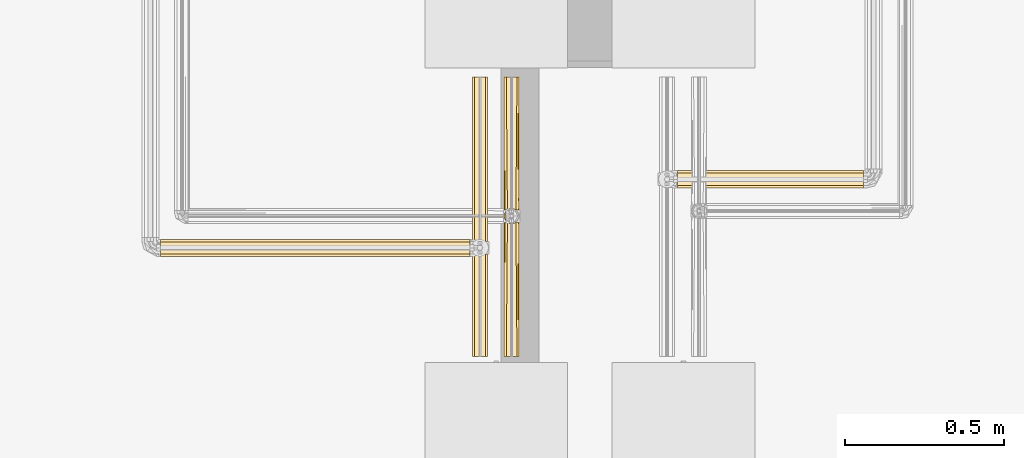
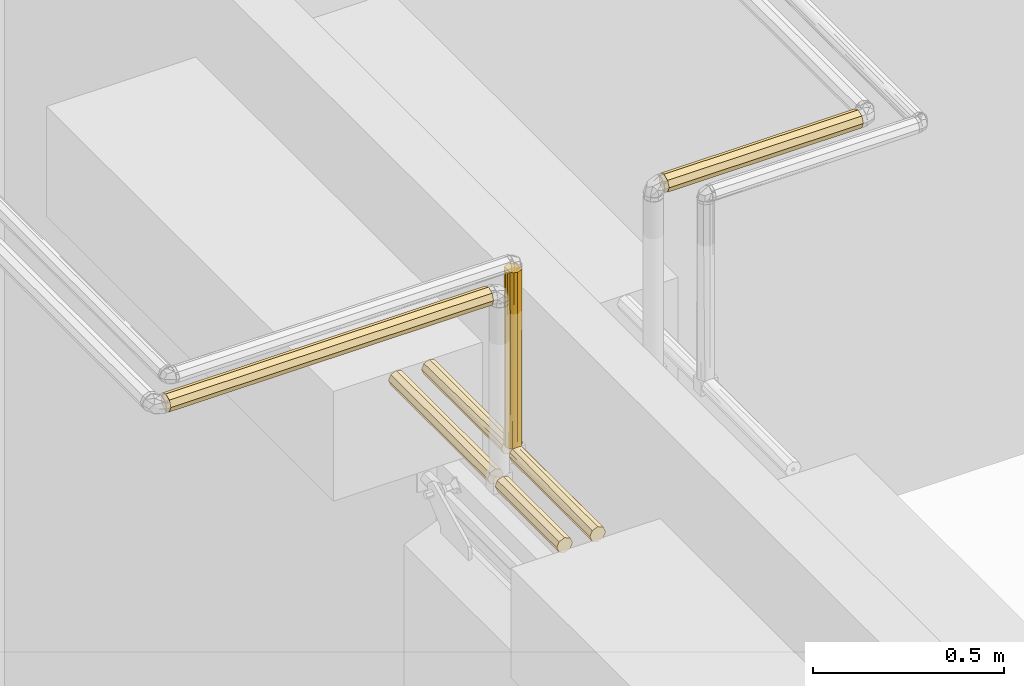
# One storey, part 165 of 652: 7 coverings.
"""IFC2X3 building model written with IfcOpenShell, lengths in millimetres."""

from ifc_helpers import new_model, entity, si_unit, converted_unit, direction, frame, origin, place, context, subcontext, project, spatial, faceted_brep, material, type_object, element, save


model = new_model("IFC2X3")

# Units and contexts
model_context = context("Model", 3, precision=0.01, world=frame((0.0, 0.0, 308426.39999999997)), true_north=direction((6.123233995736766e-17, 1.0)))
plan_context = context("Plan", 3, precision=0.01, world=frame((0.0, 0.0, 308426.39999999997)), true_north=direction((6.123233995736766e-17, 1.0)))
body_context = subcontext(model_context, "Body", "Model", "MODEL_VIEW")
ifc_project = project(units=[si_unit("LENGTHUNIT", "METRE", prefix="MILLI"), si_unit("AREAUNIT", "SQUARE_METRE"), si_unit("VOLUMEUNIT", "CUBIC_METRE"), converted_unit("PLANEANGLEUNIT", "DEGREE", entity("IfcPlaneAngleMeasure", 0.017453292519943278), si_unit("PLANEANGLEUNIT", "RADIAN"), dimensions=[0, 0, 0, 0, 0, 0, 0])], contexts=[model_context, plan_context])

# Site, building, storey
site_placement = place(None, origin())
site = spatial("IfcSite", under=ifc_project, at=site_placement, Name="Default", CompositionType="ELEMENT")
building_placement = place(site_placement, origin())
building = spatial("IfcBuilding", under=site, at=building_placement, CompositionType="ELEMENT")
storey_placement = place(building_placement, frame((0.0, 0.0, 1730.6999999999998)))
storey = spatial("IfcBuildingStorey", under=building, at=storey_placement, Name="EG_Produktion_FFB", CompositionType="ELEMENT", Elevation=1730.6999999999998)

# Coverings
ifc_material = material(Name="Dämmung - Armaflex-Schlauch")
covering_type = type_object("IfcCoveringType", Name="Rohrdämmung außen:Armaflex-Schlauch", PredefinedType="INSULATION")
covering_1_placement = place(storey_placement, frame((26822.89316691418, 55629.92856831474, 2725.357772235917)))
element("IfcCovering", 1, at=covering_1_placement, inside=storey, type_object=covering_type, material=ifc_material, Name="Rohrdämmung außen:Armaflex-Schlauch", ObjectType="Rohrdämmung außen:Armaflex-Schlauch", PredefinedType="INSULATION", context=body_context, shape_type="Brep", body=[
    faceted_brep([(8.55514734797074, 419.7263330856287, -42.16039712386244), (6.8151785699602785, 419.7263330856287, -37.959740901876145), (5.0752097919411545, 419.7263330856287, -33.75908467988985), (3.3352410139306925, 419.7263330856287, -29.55842845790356), (1.5952722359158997, 419.7263330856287, -25.357772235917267), (3.3352410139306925, 419.7263330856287, -21.157116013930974), (5.0752097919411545, 419.7263330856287, -16.95645979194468), (6.815178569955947, 419.7263330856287, -12.755803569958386), (8.55514734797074, 419.7263330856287, -8.555147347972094), (12.755803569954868, 419.7263330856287, -6.815178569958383), (16.956459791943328, 419.7263330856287, -5.0752097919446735), (21.157116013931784, 419.7263330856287, -3.3352410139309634), (25.357772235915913, 419.7263330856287, -1.5952722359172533), (29.55842845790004, 419.7263330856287, -3.3352410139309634), (33.759084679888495, 419.7263330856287, -5.0752097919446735), (37.95974090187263, 419.7263330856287, -6.815178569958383), (42.16039712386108, 419.7263330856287, -8.555147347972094), (43.90036590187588, 419.7263330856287, -12.755803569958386), (45.64033467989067, 419.7263330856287, -16.95645979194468), (47.38030345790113, 419.7263330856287, -21.157116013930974), (49.12027223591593, 419.7263330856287, -25.357772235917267), (47.38030345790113, 419.7263330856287, -29.55842845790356), (45.64033467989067, 419.7263330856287, -33.75908467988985), (43.900365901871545, 419.7263330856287, -37.959740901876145), (42.16039712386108, 419.7263330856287, -42.16039712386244), (37.95974090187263, 419.7263330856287, -43.90036590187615), (33.759084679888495, 419.7263330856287, -45.64033467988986), (29.55842845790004, 419.7263330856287, -47.380303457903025), (25.357772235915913, 419.7263330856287, -49.12027223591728), (22.317827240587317, 419.7263330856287, -47.86108578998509), (16.956459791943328, 419.7263330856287, -45.64033467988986), (12.755803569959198, 419.7263330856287, -43.90036590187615), (46.359313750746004, 1.5952722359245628, -14.240593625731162), (42.539923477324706, 1.5952722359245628, -9.974557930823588), (38.72053320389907, 1.5952722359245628, -5.708522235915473), (11.995011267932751, 1.5952722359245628, -5.708522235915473), (8.175620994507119, 1.5952722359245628, -9.974557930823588), (4.3562307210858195, 1.5952722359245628, -14.240593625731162), (2.975751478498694, 1.5952722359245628, -19.799182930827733), (1.5952722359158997, 1.5952722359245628, -25.357772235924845), (4.1136451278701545, 1.5952722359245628, -31.43766222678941), (6.334396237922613, 1.5952722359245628, -36.799029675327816), (8.55514734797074, 1.5952722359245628, -42.16039712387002), (12.755803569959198, 1.5952722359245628, -43.90036590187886), (16.95645979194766, 1.5952722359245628, -45.64033467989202), (21.157116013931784, 1.5952722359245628, -47.38030345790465), (25.357772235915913, 1.5952722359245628, -49.12027223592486), (31.437662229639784, 1.5952722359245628, -46.601899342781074), (36.7990296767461, 1.5952722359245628, -44.38114823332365), (42.16039712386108, 1.5952722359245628, -42.16039712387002), (43.900365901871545, 1.5952722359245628, -37.95974090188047), (45.64033467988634, 1.5952722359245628, -33.75908467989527), (47.38030345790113, 1.5952722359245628, -29.558428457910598), (49.12027223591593, 1.5952722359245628, -25.357772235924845), (47.73979299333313, 1.5952722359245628, -19.799182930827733), (18.36702466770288, 4.656941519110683, -2.6468529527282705), (25.357772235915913, 5.708522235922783, -1.5952722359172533), (32.34851980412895, 4.656941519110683, -2.6468529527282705)], [[[0, 1, 2, 3, 4, 5, 6, 7, 8, 9, 10, 11, 12, 13, 14, 15, 16, 17, 18, 19, 20, 21, 22, 23, 24, 25, 26, 27, 28, 29, 30, 31]], [[32, 33, 34, 35, 36, 37, 38, 39, 40, 41, 42, 43, 44, 45, 46, 47, 48, 49, 50, 51, 52, 53, 54]], [[51, 50, 49, 24, 23, 22, 21, 20, 53, 52]], [[47, 46, 28, 27, 26, 25, 24, 49, 48]], [[44, 43, 42, 0, 31, 30, 29, 28, 46, 45]], [[0, 42, 41, 40, 39, 4, 3, 2, 1]], [[37, 6, 38]], [[11, 10, 55]], [[35, 10, 9, 8]], [[36, 7, 37]], [[7, 36, 8]], [[56, 11, 55]], [[39, 5, 4]], [[38, 6, 5]], [[7, 6, 37]], [[35, 55, 10]], [[11, 56, 12]], [[39, 38, 5]], [[36, 35, 8]], [[13, 12, 56]], [[16, 34, 33]], [[57, 13, 56]], [[19, 18, 54]], [[32, 17, 33]], [[19, 53, 20]], [[54, 18, 32]], [[34, 14, 57]], [[57, 14, 13]], [[17, 16, 33]], [[53, 19, 54]], [[34, 16, 15, 14]], [[32, 18, 17]], [[55, 35, 34, 57, 56]]]),
])
covering_2_placement = place(storey_placement, frame((27370.23468915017, 55699.373068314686, 3271.467227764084)))
element("IfcCovering", 2, at=covering_2_placement, inside=storey, type_object=covering_type, material=ifc_material, Name="Rohrdämmung außen:Armaflex-Schlauch", ObjectType="Rohrdämmung außen:Armaflex-Schlauch", PredefinedType="INSULATION", context=body_context, shape_type="Brep", body=[
    faceted_brep([(586.459882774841, 9.485083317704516, 9.485083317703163), (586.459882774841, 14.247005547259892, 7.512630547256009), (586.459882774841, 19.008927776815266, 5.5401777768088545), (586.4598827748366, 23.77085000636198, 3.567725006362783), (586.459882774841, 28.532772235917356, 1.595272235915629), (586.459882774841, 33.76477034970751, 3.7624368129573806), (586.459882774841, 38.05661669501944, 5.5401777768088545), (586.4598827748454, 42.81853892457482, 7.512630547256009), (586.459882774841, 47.5804611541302, 9.485083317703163), (586.459882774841, 49.552913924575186, 14.247005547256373), (586.459882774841, 51.525366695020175, 19.008927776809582), (586.4598827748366, 53.49781946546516, 23.770850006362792), (586.459882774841, 55.47027223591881, 28.532772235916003), (586.459882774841, 53.303107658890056, 33.76477034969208), (586.459882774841, 51.525366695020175, 38.05661669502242), (586.4598827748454, 49.552913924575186, 42.818538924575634), (586.459882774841, 47.5804611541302, 47.58046115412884), (586.459882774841, 42.81853892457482, 49.552913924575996), (586.459882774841, 38.05661669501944, 51.52536669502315), (586.459882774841, 33.29469446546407, 53.49781946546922), (586.459882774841, 28.532772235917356, 55.470272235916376), (586.459882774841, 23.300774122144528, 53.30310765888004), (586.459882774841, 19.008927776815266, 51.52536669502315), (586.459882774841, 14.247005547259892, 49.552913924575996), (586.459882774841, 9.485083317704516, 47.58046115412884), (586.4598827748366, 7.512630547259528, 42.818538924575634), (586.459882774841, 5.54017777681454, 38.05661669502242), (586.459882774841, 3.567725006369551, 33.29469446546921), (586.459882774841, 1.5952722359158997, 28.532772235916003), (586.459882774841, 3.567725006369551, 23.770850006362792), (586.459882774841, 5.54017777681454, 19.008927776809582), (586.4598827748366, 7.512630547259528, 14.247005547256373), (0.0, 47.5804611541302, 47.58046115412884), (0.0, 49.55291392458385, 42.818538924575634), (0.0, 51.525366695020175, 38.05661669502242), (0.0, 53.49781946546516, 33.29469446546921), (0.0, 55.47027223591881, 28.532772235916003), (0.0, 53.30310765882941, 23.300774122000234), (0.0, 51.135943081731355, 18.068776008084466), (0.0, 49.35820211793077, 13.776929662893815), (0.0, 47.5804611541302, 9.485083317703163), (0.0, 42.81853892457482, 7.512630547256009), (0.0, 38.05661669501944, 5.5401777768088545), (0.0, 33.29469446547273, 3.5677250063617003), (0.0, 28.532772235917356, 1.595272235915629), (0.0, 23.300774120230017, 3.7624368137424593), (0.0, 18.068776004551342, 5.929601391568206), (0.0, 13.776929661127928, 7.707342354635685), (0.0, 9.485083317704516, 9.485083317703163), (0.0, 7.512630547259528, 14.247005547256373), (0.0, 5.54017777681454, 19.008927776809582), (0.0, 3.567725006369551, 23.770850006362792), (0.0, 1.5952722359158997, 28.532772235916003), (0.0, 3.7624368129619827, 33.764770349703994), (0.0, 5.9296013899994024, 38.99676846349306), (0.0, 7.707342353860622, 43.288614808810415), (0.0, 9.485083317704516, 47.58046115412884), (0.0, 14.247005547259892, 49.552913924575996), (0.0, 19.008927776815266, 51.52536669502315), (0.0, 23.77085000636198, 53.49781946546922), (0.0, 28.532772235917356, 55.470272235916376), (0.0, 33.764770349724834, 53.30310765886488), (0.0, 38.99676846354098, 51.13594308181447), (0.0, 43.28861480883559, 49.35820211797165)], [[[0, 1, 2, 3, 4, 5, 6, 7, 8, 9, 10, 11, 12, 13, 14, 15, 16, 17, 18, 19, 20, 21, 22, 23, 24, 25, 26, 27, 28, 29, 30, 31]], [[32, 33, 34, 35, 36, 37, 38, 39, 40, 41, 42, 43, 44, 45, 46, 47, 48, 49, 50, 51, 52, 53, 54, 55, 56, 57, 58, 59, 60, 61, 62, 63]], [[50, 49, 48, 0, 31, 30, 29, 28, 52, 51]], [[0, 48, 47, 46, 45, 44, 4, 3, 2, 1]], [[36, 12, 11, 10, 9, 8, 40, 39, 38, 37]], [[7, 6, 5, 4, 44, 43, 42, 41, 40, 8]], [[60, 20, 19, 18, 17, 16, 32, 63, 62, 61]], [[15, 14, 13, 12, 36, 35, 34, 33, 32, 16]], [[52, 28, 27, 26, 25, 24, 56, 55, 54, 53]], [[23, 22, 21, 20, 60, 59, 58, 57, 56, 24]]]),
])
covering_3_placement = place(storey_placement, frame((25741.983749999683, 55483.341818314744, 3271.467227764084)))
element("IfcCovering", 3, at=covering_3_placement, inside=storey, type_object=covering_type, material=ifc_material, Name="Rohrdämmung außen:Armaflex-Schlauch", ObjectType="Rohrdämmung außen:Armaflex-Schlauch", PredefinedType="INSULATION", context=body_context, shape_type="Brep", body=[
    faceted_brep([(0.0, 47.5804611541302, 9.485083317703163), (0.0, 42.81853892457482, 7.512630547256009), (0.0, 38.05661669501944, 5.5401777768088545), (0.0, 33.29469446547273, 3.567725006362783), (0.0, 28.532772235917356, 1.595272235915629), (0.0, 22.23407746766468, 4.204277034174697), (0.0, 19.008927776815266, 5.5401777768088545), (0.0, 14.247005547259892, 7.512630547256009), (0.0, 9.485083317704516, 9.485083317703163), (0.0, 7.512630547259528, 14.247005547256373), (0.0, 5.540177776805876, 19.008927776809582), (0.0, 3.5677250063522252, 23.770850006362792), (0.0, 1.5952722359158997, 28.532772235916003), (0.0, 4.204277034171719, 34.83146700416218), (0.0, 5.540177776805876, 38.05661669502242), (0.0, 7.512630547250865, 42.818538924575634), (0.0, 9.485083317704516, 47.58046115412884), (0.0, 14.247005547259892, 49.552913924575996), (0.0, 19.008927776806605, 51.525366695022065), (0.0, 23.77085000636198, 53.49781946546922), (0.0, 28.532772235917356, 55.470272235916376), (0.0, 34.83146700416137, 52.86126743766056), (0.0, 38.05661669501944, 51.52536669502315), (0.0, 42.81853892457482, 49.552913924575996), (0.0, 47.5804611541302, 47.58046115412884), (0.0, 49.552913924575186, 42.818538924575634), (0.0, 51.525366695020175, 38.05661669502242), (0.0, 53.497819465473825, 33.29469446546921), (0.0, 55.47027223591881, 28.532772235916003), (0.0, 53.49781946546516, 23.770850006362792), (0.0, 51.525366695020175, 19.008927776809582), (0.0, 49.55291392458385, 14.247005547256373), (974.2834391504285, 9.485083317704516, 47.58046115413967), (974.2834391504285, 7.512630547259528, 42.81853892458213), (974.2834391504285, 5.54017777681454, 38.05661669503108), (974.2834391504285, 3.567725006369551, 33.294694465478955), (974.2834391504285, 1.5952722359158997, 28.53277223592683), (974.2834391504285, 4.2042770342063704, 22.234077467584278), (974.2834391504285, 6.8132818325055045, 15.935382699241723), (974.2834391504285, 9.485083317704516, 9.485083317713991), (974.283439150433, 14.247005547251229, 7.51263054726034), (974.283439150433, 19.008927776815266, 5.540177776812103), (974.283439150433, 23.77085000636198, 3.567725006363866), (974.2834391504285, 28.532772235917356, 1.5952722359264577), (974.2834391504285, 34.8314670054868, 4.204277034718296), (974.2834391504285, 41.130161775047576, 6.813281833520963), (974.2834391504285, 47.5804611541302, 9.485083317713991), (974.2834391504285, 49.552913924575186, 14.24700554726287), (974.2834391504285, 51.525366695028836, 19.008927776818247), (974.2834391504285, 53.497819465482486, 23.770850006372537), (974.2834391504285, 55.47027223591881, 28.53277223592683), (974.2834391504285, 52.86126743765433, 34.83146700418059), (974.2834391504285, 50.25226263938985, 41.13016177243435), (974.2834391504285, 47.5804611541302, 47.58046115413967), (974.2834391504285, 42.81853892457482, 49.552913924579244), (974.2834391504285, 38.05661669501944, 51.52536669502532), (974.2834391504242, 33.29469446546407, 53.49781946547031), (974.2834391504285, 28.532772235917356, 55.470272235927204), (974.2834391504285, 22.234077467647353, 52.8612674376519), (974.2834391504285, 15.935382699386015, 50.25226263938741)], [[[0, 1, 2, 3, 4, 5, 6, 7, 8, 9, 10, 11, 12, 13, 14, 15, 16, 17, 18, 19, 20, 21, 22, 23, 24, 25, 26, 27, 28, 29, 30, 31]], [[32, 33, 34, 35, 36, 37, 38, 39, 40, 41, 42, 43, 44, 45, 46, 47, 48, 49, 50, 51, 52, 53, 54, 55, 56, 57, 58, 59]], [[48, 47, 46, 0, 31, 30, 29, 28, 50, 49]], [[46, 45, 44, 43, 4, 3, 2, 1, 0]], [[10, 9, 8, 39, 38, 37, 36, 12, 11]], [[7, 6, 5, 4, 43, 42, 41, 40, 39, 8]], [[18, 17, 16, 32, 59, 58, 57, 20, 19]], [[15, 14, 13, 12, 36, 35, 34, 33, 32, 16]], [[26, 25, 24, 53, 52, 51, 50, 28, 27]], [[23, 22, 21, 20, 57, 56, 55, 54, 53, 24]]]),
])
covering_4_placement = place(storey_placement, frame((26722.89316691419, 55531.52384055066, 2725.3577722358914)))
element("IfcCovering", 4, at=covering_4_placement, inside=storey, type_object=covering_type, material=ifc_material, Name="Rohrdämmung außen:Armaflex-Schlauch", ObjectType="Rohrdämmung außen:Armaflex-Schlauch", PredefinedType="INSULATION", context=body_context, shape_type="Brep", body=[
    faceted_brep([(8.55514734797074, 518.1310608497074, -42.16039712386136), (6.815178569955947, 518.1310608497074, -37.95974090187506), (5.075209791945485, 518.1310608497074, -33.759084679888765), (3.3352410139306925, 518.1310608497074, -29.558428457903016), (1.5952722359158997, 518.1310608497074, -25.357772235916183), (3.6275957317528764, 518.1310608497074, -20.451309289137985), (5.075209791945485, 518.1310608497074, -16.956459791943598), (6.815178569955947, 518.1310608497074, -12.755803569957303), (8.55514734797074, 518.1310608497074, -8.55514734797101), (12.755803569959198, 518.1310608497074, -6.8151785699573), (16.956459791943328, 518.1310608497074, -5.075209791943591), (21.157116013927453, 518.1310608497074, -3.3352410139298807), (25.357772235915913, 518.1310608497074, -1.5952722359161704), (30.264235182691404, 518.1310608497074, -3.6275957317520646), (33.759084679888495, 518.1310608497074, -5.075209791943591), (37.95974090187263, 518.1310608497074, -6.8151785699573), (42.16039712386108, 518.1310608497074, -8.55514734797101), (43.90036590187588, 518.1310608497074, -12.755803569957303), (45.64033467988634, 518.1310608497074, -16.956459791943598), (47.38030345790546, 518.1310608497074, -21.15711601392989), (49.12027223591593, 518.1310608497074, -25.357772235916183), (47.38030345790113, 518.1310608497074, -29.558428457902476), (45.64033467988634, 518.1310608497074, -33.759084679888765), (43.900365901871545, 518.1310608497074, -37.959740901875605), (42.16039712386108, 518.1310608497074, -42.16039712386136), (37.95974090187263, 518.1310608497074, -43.90036590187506), (33.759084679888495, 518.1310608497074, -45.640334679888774), (29.55842845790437, 518.1310608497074, -47.380303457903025), (25.357772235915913, 518.1310608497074, -49.1202722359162), (20.451309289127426, 518.1310608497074, -47.087948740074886), (16.956459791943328, 518.1310608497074, -45.640334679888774), (12.755803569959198, 518.1310608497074, -43.90036590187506), (42.16039712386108, 0.0, -8.555147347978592), (37.95974090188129, 0.0, -6.815178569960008), (33.759084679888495, 0.0, -5.075209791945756), (29.55842845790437, 0.0, -3.335241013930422), (25.357772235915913, 0.0, -1.5952722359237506), (20.451309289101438, 0.0, -3.627595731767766), (15.544846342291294, 0.0, -5.659919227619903), (8.55514734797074, 0.0, -8.555147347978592), (6.815178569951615, 0.0, -12.755803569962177), (5.0752097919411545, 0.0, -16.956459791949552), (3.3352410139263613, 0.0, -21.15711601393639), (1.5952722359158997, 0.0, -25.35777223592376), (3.6275957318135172, 0.0, -30.2642351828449), (5.659919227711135, 0.0, -35.17069812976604), (8.55514734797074, 0.0, -42.16039712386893), (12.755803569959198, 0.0, -43.90036590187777), (16.956459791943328, 0.0, -45.64033467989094), (21.157116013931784, 0.0, -47.38030345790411), (25.357772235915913, 0.0, -49.12027223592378), (30.264235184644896, 0.0, -47.087948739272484), (35.17069813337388, 0.0, -45.055625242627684), (42.16039712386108, 0.0, -42.16039712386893), (43.90036590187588, 0.0, -37.95974090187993), (45.64033467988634, 0.0, -33.75908467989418), (47.3803034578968, 0.0, -29.558428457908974), (49.12027223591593, 0.0, -25.35777223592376), (47.087948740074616, 0.0, -20.451309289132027), (45.055625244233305, 0.0, -15.544846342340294)], [[[0, 1, 2, 3, 4, 5, 6, 7, 8, 9, 10, 11, 12, 13, 14, 15, 16, 17, 18, 19, 20, 21, 22, 23, 24, 25, 26, 27, 28, 29, 30, 31]], [[32, 33, 34, 35, 36, 37, 38, 39, 40, 41, 42, 43, 44, 45, 46, 47, 48, 49, 50, 51, 52, 53, 54, 55, 56, 57, 58, 59]], [[55, 54, 53, 24, 23, 22, 21, 20, 57, 56]], [[53, 52, 51, 50, 28, 27, 26, 25, 24]], [[43, 4, 3, 2, 1, 0, 46, 45, 44]], [[31, 30, 29, 28, 50, 49, 48, 47, 46, 0]], [[36, 12, 11, 10, 9, 8, 39, 38, 37]], [[7, 6, 5, 4, 43, 42, 41, 40, 39, 8]], [[57, 20, 19, 18, 17, 16, 32, 59, 58]], [[15, 14, 13, 12, 36, 35, 34, 33, 32, 16]]]),
])
covering_5_placement = place(storey_placement, frame((26822.89316691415, 55169.654901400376, 2725.357772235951)))
element("IfcCovering", 5, at=covering_5_placement, inside=storey, type_object=covering_type, material=ifc_material, Name="Rohrdämmung außen:Armaflex-Schlauch", ObjectType="Rohrdämmung außen:Armaflex-Schlauch", PredefinedType="INSULATION", context=body_context, shape_type="Brep", body=[
    faceted_brep([(11.995011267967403, 422.57043915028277, -5.708522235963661), (38.72053320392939, 422.57043915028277, -5.708522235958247), (42.539923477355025, 422.57043915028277, -9.974557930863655), (46.35931375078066, 422.57043915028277, -14.240593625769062), (47.73979299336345, 422.57043915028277, -19.799182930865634), (49.12027223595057, 422.57043915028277, -25.357772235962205), (47.380303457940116, 422.57043915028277, -29.558428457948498), (45.64033467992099, 422.57043915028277, -33.75908467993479), (43.900365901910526, 422.57043915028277, -37.95974090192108), (42.160397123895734, 422.57043915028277, -42.16039712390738), (37.95974090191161, 422.57043915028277, -43.900365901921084), (33.75908467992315, 422.57043915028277, -45.640334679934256), (29.558428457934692, 422.57043915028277, -47.38030345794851), (25.357772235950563, 422.57043915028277, -49.12027223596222), (22.349763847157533, 422.57043915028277, -47.87431436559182), (16.956459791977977, 422.57043915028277, -45.640334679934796), (12.755803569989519, 422.57043915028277, -43.900365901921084), (8.555147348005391, 422.57043915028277, -42.16039712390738), (6.815178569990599, 422.57043915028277, -37.95974090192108), (5.0752097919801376, 422.57043915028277, -33.75908467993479), (3.3352410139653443, 422.57043915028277, -29.558428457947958), (1.5952722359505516, 422.57043915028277, -25.357772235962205), (2.9757514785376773, 422.57043915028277, -19.799182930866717), (4.356230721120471, 422.57043915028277, -14.24059362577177), (8.175620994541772, 422.57043915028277, -9.974557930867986), (42.16039712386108, 0.0, -8.55514734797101), (37.959740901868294, 0.0, -6.815178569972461), (33.759084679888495, 0.0, -5.075209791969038), (29.55842845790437, 0.0, -3.3352410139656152), (25.357772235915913, 0.0, -1.5952722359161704), (21.15711601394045, 0.0, -3.335241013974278), (16.95645979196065, 0.0, -5.0752097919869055), (12.755803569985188, 0.0, -6.81517856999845), (8.55514734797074, 0.0, -8.55514734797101), (6.81517856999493, 0.0, -12.755803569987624), (5.0752097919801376, 0.0, -16.95645979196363), (3.3352410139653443, 0.0, -21.157116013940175), (1.5952722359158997, 0.0, -25.357772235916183), (4.087187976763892, 0.0, -31.373789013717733), (6.321167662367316, 0.0, -36.76709306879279), (8.55514734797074, 0.0, -42.16039712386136), (12.755803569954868, 0.0, -43.900365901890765), (16.956459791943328, 0.0, -45.640334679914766), (21.157116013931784, 0.0, -47.38030345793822), (25.357772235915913, 0.0, -49.1202722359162), (31.37378901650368, 0.0, -46.628356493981), (36.767093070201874, 0.0, -44.39437680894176), (42.16039712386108, 0.0, -42.16039712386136), (43.900365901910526, 0.0, -37.959740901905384), (45.64033467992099, 0.0, -33.75908467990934), (47.380303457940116, 0.0, -29.558428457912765), (49.12027223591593, 0.0, -25.357772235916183), (47.87431436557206, 0.0, -22.34976384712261), (45.64033467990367, 0.0, -16.956459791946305), (43.90036590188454, 0.0, -12.755803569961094), (18.3670246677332, 419.50876986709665, -2.6468529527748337), (25.357772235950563, 418.45718915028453, -1.5952722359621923), (32.34851980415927, 419.50876986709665, -2.6468529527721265)], [[[0, 1, 2, 3, 4, 5, 6, 7, 8, 9, 10, 11, 12, 13, 14, 15, 16, 17, 18, 19, 20, 21, 22, 23, 24]], [[25, 26, 27, 28, 29, 30, 31, 32, 33, 34, 35, 36, 37, 38, 39, 40, 41, 42, 43, 44, 45, 46, 47, 48, 49, 50, 51, 52, 53, 54]], [[49, 48, 47, 9, 8, 7, 6, 5, 51, 50]], [[45, 44, 13, 12, 11, 10, 9, 47, 46]], [[42, 41, 40, 17, 16, 15, 14, 13, 44, 43]], [[17, 40, 39, 38, 37, 21, 20, 19, 18]], [[34, 33, 24]], [[0, 33, 32, 31]], [[55, 31, 30]], [[35, 23, 22]], [[33, 0, 24]], [[37, 36, 21]], [[55, 30, 56]], [[22, 36, 35]], [[23, 34, 24]], [[21, 36, 22]], [[29, 56, 30]], [[0, 31, 55]], [[23, 35, 34]], [[1, 27, 26, 25]], [[2, 54, 3]], [[56, 28, 57]], [[57, 27, 1]], [[54, 2, 25]], [[53, 4, 3]], [[54, 53, 3]], [[28, 27, 57]], [[52, 5, 4]], [[4, 53, 52]], [[52, 51, 5]], [[28, 56, 29]], [[2, 1, 25]], [[0, 55, 56, 57, 1]]]),
])
covering_6_placement = place(storey_placement, frame((26822.893166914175, 55586.51681831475, 2718.053977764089)))
element("IfcCovering", 6, at=covering_6_placement, inside=storey, type_object=covering_type, material=ifc_material, Name="Rohrdämmung außen:Armaflex-Schlauch", ObjectType="Rohrdämmung außen:Armaflex-Schlauch", PredefinedType="INSULATION", context=body_context, shape_type="Brep", body=[
    faceted_brep([(4.356230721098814, 36.4749508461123, 1.5952722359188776), (8.175620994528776, 40.74098654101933, 1.5952722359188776), (11.99501126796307, 45.007022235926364, 1.5952722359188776), (38.72053320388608, 45.007022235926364, 1.5952722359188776), (42.539923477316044, 40.74098654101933, 1.5952722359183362), (46.359313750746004, 36.4749508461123, 1.5952722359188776), (47.73979299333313, 30.916361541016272, 1.5952722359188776), (49.120272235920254, 25.35777223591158, 1.5952722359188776), (47.73979299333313, 19.79918293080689, 1.5952722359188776), (46.359313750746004, 14.240593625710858, 1.5952722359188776), (42.53992347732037, 9.974557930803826, 1.5952722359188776), (38.72053320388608, 5.708522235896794, 1.5952722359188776), (11.995011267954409, 5.708522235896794, 1.5952722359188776), (8.175620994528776, 9.974557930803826, 1.5952722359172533), (4.356230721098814, 14.240593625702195, 1.5952722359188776), (2.9757514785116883, 19.79918293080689, 1.5952722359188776), (1.5952722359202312, 25.35777223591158, 1.5952722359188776), (2.9757514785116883, 30.916361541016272, 1.5952722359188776), (25.357772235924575, 49.12027223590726, 563.9957722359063), (20.42323069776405, 48.047093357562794, 563.9957722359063), (15.488689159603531, 46.97391447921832, 563.9957722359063), (11.448105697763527, 43.951164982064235, 563.9957722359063), (7.407522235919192, 40.928415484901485, 563.9957722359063), (7.407522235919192, 9.787128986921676, 563.9957722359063), (11.448105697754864, 6.764379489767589, 563.9957722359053), (15.488689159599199, 3.7416299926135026, 563.9957722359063), (20.42323069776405, 2.6684511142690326, 563.9957722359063), (25.357772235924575, 1.5952722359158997, 563.9957722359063), (29.558428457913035, 3.3352410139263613, 563.9957722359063), (33.759084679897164, 5.075209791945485, 563.9957722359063), (37.95974090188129, 6.815178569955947, 563.9957722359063), (42.16039712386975, 8.55514734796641, 563.9957722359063), (43.90036590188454, 12.755803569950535, 563.9957722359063), (45.640334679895, 16.956459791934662, 563.9957722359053), (47.38030345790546, 21.157116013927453, 563.9957722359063), (49.12027223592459, 25.35777223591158, 563.9957722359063), (47.247923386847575, 29.87802222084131, 563.9957722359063), (45.640334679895, 33.759084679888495, 563.9957722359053), (43.90036590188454, 37.95974090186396, 563.9957722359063), (42.16039712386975, 42.160397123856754, 563.9957722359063), (37.95974090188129, 43.90036590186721, 563.9957722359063), (33.759084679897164, 45.640334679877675, 563.9957722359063), (29.558428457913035, 47.3803034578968, 563.9957722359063), (25.357772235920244, 1.5952722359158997, 5.708522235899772), (18.367024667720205, 2.6468529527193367, 4.656941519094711), (3.095705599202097, 17.047730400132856, 559.6839555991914), (5.251613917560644, 13.417429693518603, 561.8398639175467), (2.34548891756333, 21.202751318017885, 558.9337389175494), (1.5952722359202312, 25.35777223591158, 558.1835222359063), (3.095705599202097, 33.66781407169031, 559.6839555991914), (5.251613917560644, 37.2981147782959, 561.8398639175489), (2.4826346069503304, 30.272364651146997, 559.0708846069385), (25.357772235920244, 49.12027223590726, 5.708522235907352), (18.367024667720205, 48.06869151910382, 4.656941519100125), (32.348519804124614, 48.06869151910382, 4.656941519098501), (32.348519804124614, 2.6468529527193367, 4.656941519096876)], [[[0, 1, 2, 3, 4, 5, 6, 7, 8, 9, 10, 11, 12, 13, 14, 15, 16, 17]], [[18, 19, 20, 21, 22, 23, 24, 25, 26, 27, 28, 29, 30, 31, 32, 33, 34, 35, 36, 37, 38, 39, 40, 41, 42]], [[43, 26, 44]], [[26, 43, 27]], [[12, 25, 24]], [[12, 44, 25]], [[24, 23, 13]], [[12, 24, 13]], [[45, 14, 46]], [[26, 25, 44]], [[15, 45, 47]], [[46, 13, 23]], [[47, 48, 16]], [[47, 16, 15]], [[14, 13, 46]], [[15, 14, 45]], [[0, 49, 50]], [[21, 1, 22]], [[16, 48, 51]], [[17, 49, 0]], [[16, 51, 17]], [[49, 17, 51]], [[52, 19, 18]], [[0, 50, 1]], [[1, 21, 2]], [[53, 2, 20]], [[19, 52, 53]], [[50, 22, 1]], [[21, 20, 2]], [[53, 20, 19]], [[3, 41, 40, 39]], [[4, 38, 5]], [[52, 42, 54]], [[54, 41, 3]], [[38, 4, 39]], [[37, 6, 5]], [[38, 37, 5]], [[42, 41, 54]], [[36, 7, 6]], [[6, 37, 36]], [[36, 35, 7]], [[42, 52, 18]], [[4, 3, 39]], [[32, 31, 10]], [[11, 31, 30, 29]], [[55, 29, 28]], [[33, 9, 8]], [[31, 11, 10]], [[35, 34, 7]], [[55, 28, 43]], [[8, 34, 33]], [[9, 32, 10]], [[7, 34, 8]], [[27, 43, 28]], [[11, 29, 55]], [[9, 33, 32]], [[44, 12, 11, 55, 43]], [[2, 53, 52, 54, 3]], [[47, 45, 46, 23, 22, 50, 49, 51, 48]]]),
])
covering_7_placement = place(storey_placement, frame((26722.89316691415, 55169.654901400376, 2725.357772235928)))
element("IfcCovering", 7, at=covering_7_placement, inside=storey, type_object=covering_type, material=ifc_material, Name="Rohrdämmung außen:Armaflex-Schlauch", ObjectType="Rohrdämmung außen:Armaflex-Schlauch", PredefinedType="INSULATION", context=body_context, shape_type="Brep", body=[
    faceted_brep([(8.555147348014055, 322.57043915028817, -42.16039712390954), (6.8151785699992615, 322.57043915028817, -37.95974090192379), (5.075209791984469, 322.57043915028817, -33.759084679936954), (3.335241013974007, 322.57043915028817, -29.558428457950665), (1.5952722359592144, 322.57043915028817, -25.35777223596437), (3.227489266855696, 322.57043915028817, -21.417251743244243), (5.075209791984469, 322.57043915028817, -16.956459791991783), (6.815178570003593, 322.57043915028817, -12.755803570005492), (8.555147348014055, 322.57043915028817, -8.555147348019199), (12.755803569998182, 322.57043915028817, -6.8151785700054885), (16.956459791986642, 322.57043915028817, -5.075209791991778), (21.1571160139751, 322.57043915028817, -3.335241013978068), (25.357772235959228, 322.57043915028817, -1.595272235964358), (29.29829272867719, 322.57043915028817, -3.2274892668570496), (33.75908467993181, 322.57043915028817, -5.075209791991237), (37.95974090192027, 322.5704391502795, -6.815178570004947), (42.160397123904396, 322.5704391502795, -8.555147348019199), (43.900365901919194, 322.5704391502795, -12.75580357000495), (45.640334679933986, 322.5704391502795, -16.956459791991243), (47.38030345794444, 322.57043915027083, -21.15711601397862), (49.12027223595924, 322.5704391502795, -25.35777223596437), (47.38030345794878, 322.5704391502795, -29.558428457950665), (45.640334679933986, 322.5704391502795, -33.759084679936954), (43.900365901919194, 322.5704391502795, -37.95974090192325), (42.160397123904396, 322.5704391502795, -42.16039712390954), (37.95974090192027, 322.5704391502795, -43.90036590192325), (33.75908467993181, 322.5704391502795, -45.64033467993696), (29.558428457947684, 322.5704391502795, -47.380303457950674), (25.357772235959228, 322.5704391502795, -49.120272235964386), (21.41725174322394, 322.5704391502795, -47.488055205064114), (16.956459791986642, 322.57043915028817, -45.64033467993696), (12.755803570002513, 322.57043915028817, -43.90036590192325), (42.16039712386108, 0.0, -8.55514734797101), (37.95974090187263, 0.0, -6.815178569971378), (33.75908467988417, 0.0, -5.075209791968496), (29.55842845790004, 0.0, -3.335241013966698), (25.357772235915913, 0.0, -1.5952722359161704), (21.41725174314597, 0.0, -3.2274892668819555), (17.47673125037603, 0.0, -4.859706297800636), (13.015939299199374, 0.0, -6.7074268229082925), (8.55514734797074, 0.0, -8.55514734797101), (6.8151785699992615, 0.0, -12.755803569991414), (5.075209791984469, 0.0, -16.95645979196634), (3.335241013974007, 0.0, -21.157116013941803), (1.5952722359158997, 0.0, -25.357772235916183), (3.227489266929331, 0.0, -29.29829272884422), (4.859706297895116, 0.0, -33.23881322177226), (6.707426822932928, 0.0, -37.69960517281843), (8.55514734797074, 0.0, -42.16039712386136), (12.755803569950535, 0.0, -43.900365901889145), (16.956459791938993, 0.0, -45.640334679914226), (21.157116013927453, 0.0, -47.380303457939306), (25.357772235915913, 0.0, -49.1202722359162), (29.29829273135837, 0.0, -47.488055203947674), (33.23881322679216, 0.0, -45.85583817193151), (37.69960517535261, 0.0, -44.00811764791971), (42.16039712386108, 0.0, -42.16039712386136), (43.90036590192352, 0.0, -37.95974090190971), (45.640334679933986, 0.0, -33.75908467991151), (47.38030345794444, 0.0, -29.558428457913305), (49.12027223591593, 0.0, -25.357772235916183), (47.48805520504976, 0.0, -21.41725174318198), (45.855838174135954, 0.0, -17.47673125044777), (44.00811764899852, 0.0, -13.015939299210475)], [[[0, 1, 2, 3, 4, 5, 6, 7, 8, 9, 10, 11, 12, 13, 14, 15, 16, 17, 18, 19, 20, 21, 22, 23, 24, 25, 26, 27, 28, 29, 30, 31]], [[32, 33, 34, 35, 36, 37, 38, 39, 40, 41, 42, 43, 44, 45, 46, 47, 48, 49, 50, 51, 52, 53, 54, 55, 56, 57, 58, 59, 60, 61, 62, 63]], [[58, 57, 56, 24, 23, 22, 21, 20, 60, 59]], [[54, 53, 52, 28, 27, 26, 25, 24, 56, 55]], [[29, 28, 52, 51, 50, 49, 48, 0, 31, 30]], [[0, 48, 47, 46, 45, 44, 4, 3, 2, 1]], [[5, 4, 44, 43, 42, 41, 40, 8, 7, 6]], [[8, 40, 39, 38, 37, 36, 12, 11, 10, 9]], [[13, 12, 36, 35, 34, 33, 32, 16, 15, 14]], [[16, 32, 63, 62, 61, 60, 20, 19, 18, 17]]]),
])

save(model, "model.ifc")
